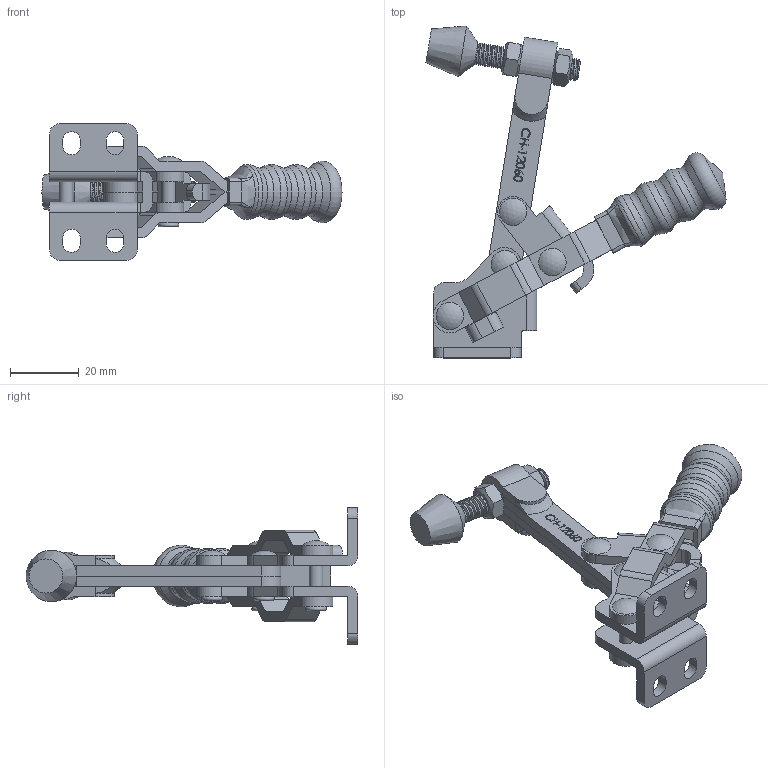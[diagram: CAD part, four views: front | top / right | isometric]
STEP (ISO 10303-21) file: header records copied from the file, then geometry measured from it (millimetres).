
FILE_DESCRIPTION(/* description */ ('STEP AP203'),/* implementation_level */ '2;1');
FILE_NAME(/* name */ 'D:\Vault_2016\Projekty\NASZ KATALOG\CLAMPTEK\STRONA\Vertical toggle clamp\CH-12060\CH-12060_OTWARTY.stp',/* time_stamp */ '2019-01-18T12:50:08+01:00',/* author */ ('CADENGINEERING4'),/* organization */ ('Î¢ÈíÖÐ¹ú'),/* preprocessor_version */ 'ST-DEVELOPER v17.2',/* originating_system */ 'Autodesk Inventor 2019',/* authorisation */ '');
FILE_SCHEMA (('AUTOMOTIVE_DESIGN { 1 0 10303 214 3 1 1 }'));
Length unit declared in the file: millimetre
Products named in the file (10): CH-12060_OTWARTY; CH-12050-01 FLANGED BASE; CH-12050-04 CONNECTING-PLATE; CH-12050-03 STRAIGHT HANDLE; CH-12050-06; CH-12050-05; CH-FC-14134 SPINDLE SUPPLIED; CH-FC-14134 Nut; CH-12050-07; CH-12060-02 SOLID BAR_Ä¬ÈÏ_°´¼
Ó¹¤_
Assembly tree (12 placements, depth 2):
  CH-12060_OTWARTY
    CH-12050-01 FLANGED BASE
    CH-12050-04 CONNECTING-PLATE
    CH-12050-03 STRAIGHT HANDLE
    CH-12050-06  x2
    CH-12050-05
    CH-FC-14134 Nut  x2
    CH-FC-14134 SPINDLE SUPPLIED
    CH-12050-07  x2
    CH-12060-02 SOLID BAR_Ä¬ÈÏ_°´¼
Ó¹¤_
Bounding box: 87.59 x 96.88 x 39.8 mm (x, y, z)
Volume: 26871 mm3; surface area: 24038.4 mm2
Topology: 17 solids, 19 shells, 655 faces, 1810 edges, 1223 vertices
Faces by surface type: plane 287, bspline 190, cylinder 131, cone 27, torus 16, sphere 4
Full cylindrical faces by diameter (mm): 1.219 x1, 1.411 x1, 4 x20, 5.1 x6, 6.4 x26
Entity records: 38432 total; most frequent: CARTESIAN_POINT 23288, ORIENTED_EDGE 3428, DIRECTION 2445, EDGE_CURVE 1714, VERTEX_POINT 1159, LINE 939, VECTOR 939, AXIS2_PLACEMENT_3D 753
